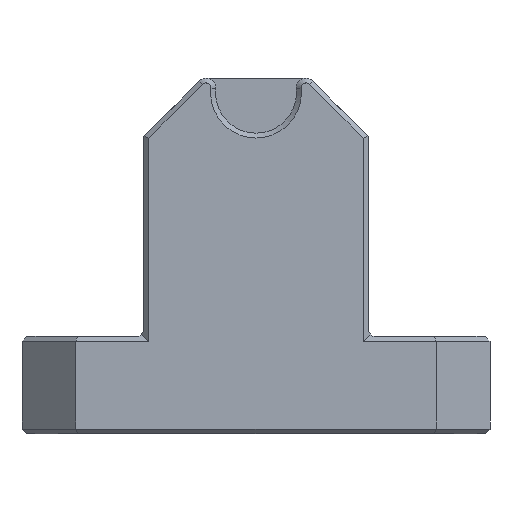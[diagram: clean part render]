
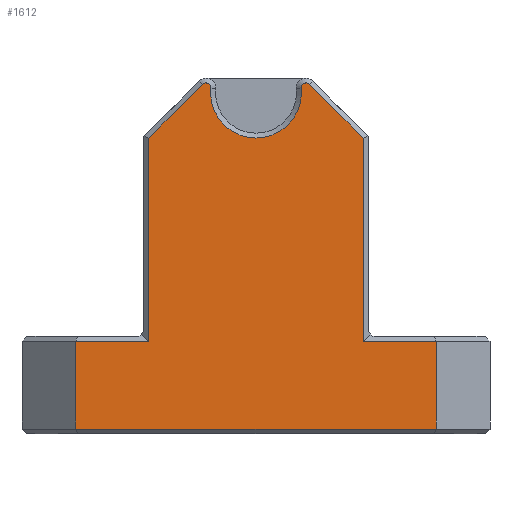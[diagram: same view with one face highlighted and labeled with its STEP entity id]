
A CAD part, front view. The second image highlights one B-rep face of the part: STEP entity #1612.
In plain terms, the highlighted planar face has unit normal (0, -1, 0).
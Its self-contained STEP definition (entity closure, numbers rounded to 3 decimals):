
#409=CARTESIAN_POINT('Vertex',(18.5,-10.,-34.5)) ;
#443=CARTESIAN_POINT('Line Origine',(0.,-10.,-34.5)) ;
#447=CARTESIAN_POINT('Vertex',(-18.5,-10.,-34.5)) ;
#1100=CARTESIAN_POINT('Vertex',(-5.479,-10.,0.854)) ;
#1103=CARTESIAN_POINT('Axis2P3D Location',(-5.126,-10.,0.5)) ;
#1107=CARTESIAN_POINT('Vertex',(-4.628,-10.,0.451)) ;
#1127=CARTESIAN_POINT('Axis2P3D Location',(0.,-10.,0.)) ;
#1131=CARTESIAN_POINT('Vertex',(4.628,-10.,0.451)) ;
#1151=CARTESIAN_POINT('Axis2P3D Location',(5.126,-10.,0.5)) ;
#1155=CARTESIAN_POINT('Vertex',(5.479,-10.,0.854)) ;
#1253=CARTESIAN_POINT('Vertex',(-18.5,-10.,-25.5)) ;
#1256=CARTESIAN_POINT('Line Origine',(-18.5,-10.,-30.)) ;
#1398=CARTESIAN_POINT('Vertex',(-11.,-10.,-4.667)) ;
#1401=CARTESIAN_POINT('Line Origine',(-11.766,-10.,-5.434)) ;
#1492=CARTESIAN_POINT('Line Origine',(18.5,-10.,-30.)) ;
#1496=CARTESIAN_POINT('Vertex',(18.5,-10.,-25.5)) ;
#1562=CARTESIAN_POINT('Axis2P3D Location',(0.,-10.,0.)) ;
#1567=CARTESIAN_POINT('Line Origine',(14.75,-10.,-25.5)) ;
#1571=CARTESIAN_POINT('Vertex',(11.,-10.,-25.5)) ;
#1574=CARTESIAN_POINT('Line Origine',(11.,-10.,-15.084)) ;
#1578=CARTESIAN_POINT('Vertex',(11.,-10.,-4.667)) ;
#1581=CARTESIAN_POINT('Line Origine',(8.24,-10.,-1.907)) ;
#1586=CARTESIAN_POINT('Line Origine',(-11.,-10.,-15.084)) ;
#1590=CARTESIAN_POINT('Vertex',(-11.,-10.,-25.5)) ;
#1593=CARTESIAN_POINT('Line Origine',(-14.75,-10.,-25.5)) ;
#444=DIRECTION('Vector Direction',(-1.,0.,0.)) ;
#1104=DIRECTION('Axis2P3D Direction',(0.,1.,0.)) ;
#1128=DIRECTION('Axis2P3D Direction',(0.,1.,0.)) ;
#1152=DIRECTION('Axis2P3D Direction',(0.,1.,0.)) ;
#1257=DIRECTION('Vector Direction',(0.,0.,1.)) ;
#1402=DIRECTION('Vector Direction',(-0.707,0.,-0.707)) ;
#1493=DIRECTION('Vector Direction',(0.,0.,1.)) ;
#1563=DIRECTION('Axis2P3D Direction',(0.,1.,-0.)) ;
#1564=DIRECTION('Axis2P3D XDirection',(-1.,0.,0.)) ;
#1568=DIRECTION('Vector Direction',(-1.,0.,0.)) ;
#1575=DIRECTION('Vector Direction',(0.,0.,-1.)) ;
#1582=DIRECTION('Vector Direction',(0.707,0.,-0.707)) ;
#1587=DIRECTION('Vector Direction',(0.,0.,-1.)) ;
#1594=DIRECTION('Vector Direction',(-1.,0.,0.)) ;
#1105=AXIS2_PLACEMENT_3D('Circle Axis2P3D',#1103,#1104,$) ;
#1129=AXIS2_PLACEMENT_3D('Circle Axis2P3D',#1127,#1128,$) ;
#1153=AXIS2_PLACEMENT_3D('Circle Axis2P3D',#1151,#1152,$) ;
#1565=AXIS2_PLACEMENT_3D('Plane Axis2P3D',#1562,#1563,#1564) ;
#1599=ORIENTED_EDGE('',*,*,#1573,.F.) ;
#1600=ORIENTED_EDGE('',*,*,#1580,.F.) ;
#1601=ORIENTED_EDGE('',*,*,#1585,.F.) ;
#1602=ORIENTED_EDGE('',*,*,#1157,.F.) ;
#1603=ORIENTED_EDGE('',*,*,#1133,.F.) ;
#1604=ORIENTED_EDGE('',*,*,#1109,.F.) ;
#1605=ORIENTED_EDGE('',*,*,#1405,.F.) ;
#1606=ORIENTED_EDGE('',*,*,#1592,.F.) ;
#1607=ORIENTED_EDGE('',*,*,#1597,.F.) ;
#1608=ORIENTED_EDGE('',*,*,#1260,.F.) ;
#1609=ORIENTED_EDGE('',*,*,#449,.F.) ;
#1610=ORIENTED_EDGE('',*,*,#1498,.T.) ;
#445=VECTOR('Line Direction',#444,1.) ;
#1258=VECTOR('Line Direction',#1257,1.) ;
#1403=VECTOR('Line Direction',#1402,1.) ;
#1494=VECTOR('Line Direction',#1493,1.) ;
#1569=VECTOR('Line Direction',#1568,1.) ;
#1576=VECTOR('Line Direction',#1575,1.) ;
#1583=VECTOR('Line Direction',#1582,1.) ;
#1588=VECTOR('Line Direction',#1587,1.) ;
#1595=VECTOR('Line Direction',#1594,1.) ;
#1612=ADVANCED_FACE('PartBody',(#1611),#1566,.F.) ;
#1106=CIRCLE('generated circle',#1105,0.5) ;
#1130=CIRCLE('generated circle',#1129,4.65) ;
#1154=CIRCLE('generated circle',#1153,0.5) ;
#449=EDGE_CURVE('',#410,#448,#446,.T.) ;
#1109=EDGE_CURVE('',#1101,#1108,#1106,.T.) ;
#1133=EDGE_CURVE('',#1108,#1132,#1130,.F.) ;
#1157=EDGE_CURVE('',#1132,#1156,#1154,.T.) ;
#1260=EDGE_CURVE('',#448,#1254,#1259,.T.) ;
#1405=EDGE_CURVE('',#1399,#1101,#1404,.F.) ;
#1498=EDGE_CURVE('',#410,#1497,#1495,.T.) ;
#1573=EDGE_CURVE('',#1572,#1497,#1570,.F.) ;
#1580=EDGE_CURVE('',#1579,#1572,#1577,.T.) ;
#1585=EDGE_CURVE('',#1156,#1579,#1584,.T.) ;
#1592=EDGE_CURVE('',#1591,#1399,#1589,.F.) ;
#1597=EDGE_CURVE('',#1254,#1591,#1596,.F.) ;
#1598=EDGE_LOOP('',(#1599,#1600,#1601,#1602,#1603,#1604,#1605,#1606,#1607,#1608,#1609,#1610)) ;
#1611=FACE_OUTER_BOUND('',#1598,.T.) ;
#446=LINE('Line',#443,#445) ;
#1259=LINE('Line',#1256,#1258) ;
#1404=LINE('Line',#1401,#1403) ;
#1495=LINE('Line',#1492,#1494) ;
#1570=LINE('Line',#1567,#1569) ;
#1577=LINE('Line',#1574,#1576) ;
#1584=LINE('Line',#1581,#1583) ;
#1589=LINE('Line',#1586,#1588) ;
#1596=LINE('Line',#1593,#1595) ;
#1566=PLANE('Plane',#1565) ;
#410=VERTEX_POINT('',#409) ;
#448=VERTEX_POINT('',#447) ;
#1101=VERTEX_POINT('',#1100) ;
#1108=VERTEX_POINT('',#1107) ;
#1132=VERTEX_POINT('',#1131) ;
#1156=VERTEX_POINT('',#1155) ;
#1254=VERTEX_POINT('',#1253) ;
#1399=VERTEX_POINT('',#1398) ;
#1497=VERTEX_POINT('',#1496) ;
#1572=VERTEX_POINT('',#1571) ;
#1579=VERTEX_POINT('',#1578) ;
#1591=VERTEX_POINT('',#1590) ;
